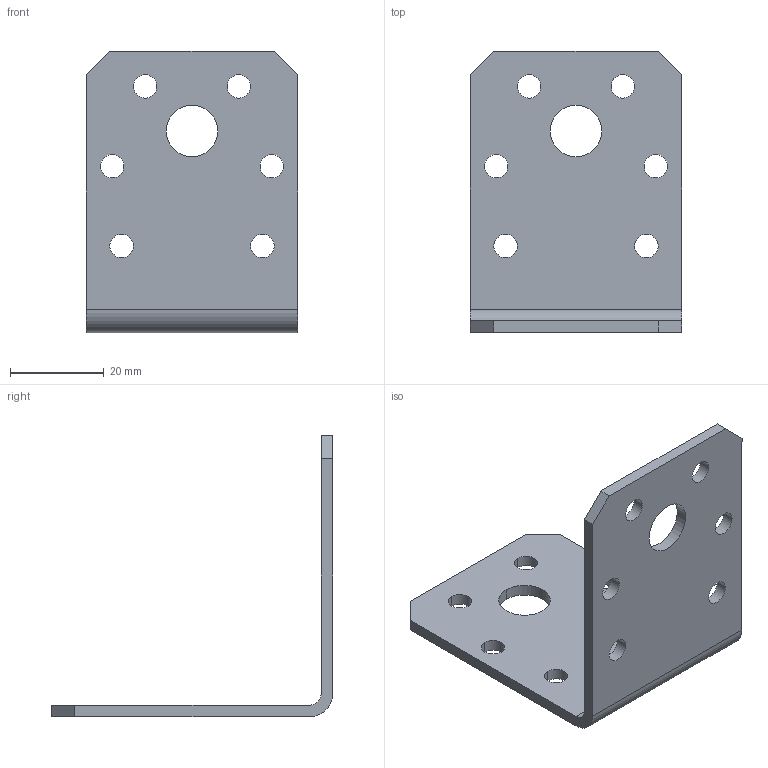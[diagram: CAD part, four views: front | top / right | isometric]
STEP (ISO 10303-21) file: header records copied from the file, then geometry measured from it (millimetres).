
FILE_DESCRIPTION (( 'STEP AP203' ), '1' );
FILE_NAME ('645.STEP', '2020-10-20T10:41:40', ( '' ), ( '' ), 'SwSTEP 2.0', 'SolidWorks 2013', '' );
FILE_SCHEMA (( 'CONFIG_CONTROL_DESIGN' ));
Length unit declared in the file: millimetre
Products named in the file (1): 645
Bounding box: 45 x 60 x 60 mm (x, y, z)
Volume: 11848.5 mm3; surface area: 10898 mm2
Topology: 1 solids, 1 shells, 42 faces, 120 edges, 80 vertices
Faces by surface type: cylinder 30, plane 12
Entity records: 1537 total; most frequent: DIRECTION 266, CARTESIAN_POINT 243, ORIENTED_EDGE 240, EDGE_CURVE 120, AXIS2_PLACEMENT_3D 103, VERTEX_POINT 80, EDGE_LOOP 70, CIRCLE 60
